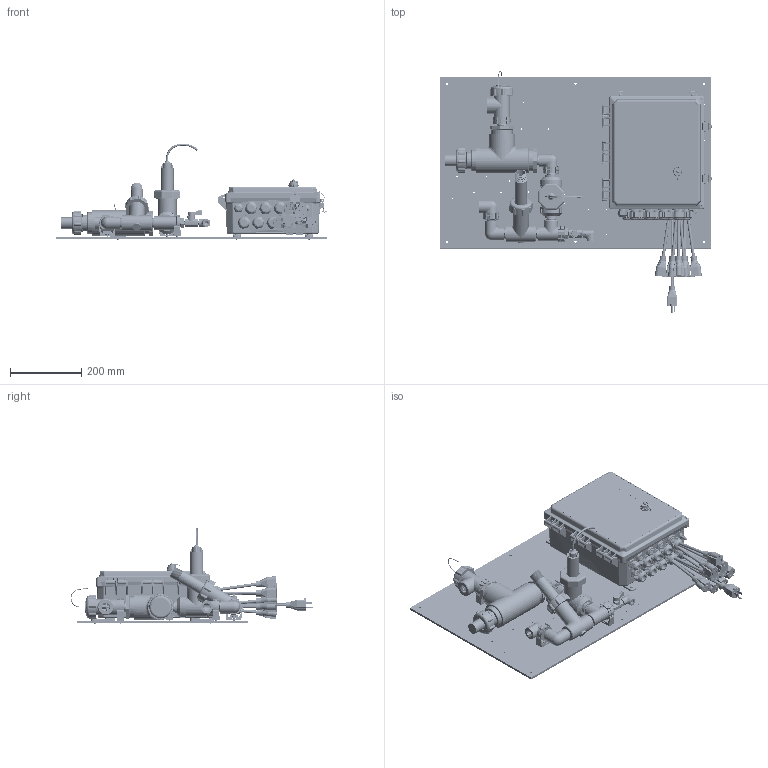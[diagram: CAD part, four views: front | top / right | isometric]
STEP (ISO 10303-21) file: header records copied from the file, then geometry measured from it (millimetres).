
FILE_DESCRIPTION (( 'STEP AP203' ), '1' );
FILE_NAME ('W900-CT-PCFPNN.STEP', '2019-04-24T14:21:08', ( '' ), ( '' ), 'SwSTEP 2.0', 'SolidWorks 2019', '' );
FILE_SCHEMA (( 'CONFIG_CONTROL_DESIGN' ));
Length unit declared in the file: inch
Products named in the file (58): ISA0006; SHELL-190996; SHELL-102381_4880K345; SHELL-102377ws; SHELL-ST-500; SHELL-103134; 102903_102903; SHELL-191638; SHELL-103859_Cord1; IMS0005; SHELL-102061; SHELL-104159; SHELL-102938; SHELL-102817-01; 102906; SHELL-102882; W900 Shell; SHELL-191020-XX; IMS0038; SHELL-102881; W900-CT-PCFPNN Manifold Only; SHELL-191157; 103860_Cord1; SHELL-102919; SHELL-102961_30075T212; SHELL-102586; IMS0040; SHELL-102423; SHELL-103283-FT; 192606-PIN; 103861; SHELL-102594; SHELL-103886_98273A320; IMS0013; IMS0039; SHELL-102884; W900-CT-PCFPNN; IMS0035_91500A537; SHELL-WEL-XXX-NN; SHELL-102880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
Assembly tree (103 placements, depth 5):
  W900-CT-PCFPNN
    SHELL-102938
    W900 Shell
      W900 Shell
      SHELL-103283-FT  x4
      IMS0035_91500A537  x4
      SHELL-103893_91772A829  x4
      ISA0006
        102907
        102903_102903
        102906
        103860_Cord1  x3
        103861
      ISA0006
        102907
        102903_102903
        102906
        103860_Cord1  x3
        103861
      ISA0006
        102907
        102903_102903
        102906
        103860_Cord1  x3
        103861
      SHELL-103859_Cord1
    102961ws
      SHELL-102961_30075T212
      SHELL-103886_98273A320
    SHELL-102377ws
      SHELL-103886_98273A320
      SHELL-102377_30075T211
    SHELL-102377ws
      SHELL-103886_98273A320
      SHELL-102377_30075T211
    W900-CT-PCFPNN Manifold Only
      SHELL-102881
      SHELL-102423  x3
      SHELL-102884
      SHELL-103425_4882K14  x7
      SHELL-191157
        SHELL-103133
        SHELL-103134  x2
        SHELL-102817-01
      SHELL-191652
        192606-PIN
        SHELL-WEL-XXX-NN
        SHELL-103778
      SHELL-191638
      SHELL-191020-XX
        SHELL-102882
        SHELL-102919
        SHELL-102594
        SHELL-190996
          SHELL-102880
          SHELL-102986  x2
        IMS0005
      SHELL-102586  x3
      SHELL-102594  x2
      SHELL-103515
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Bounding box: 764.69 x 683.29 x 271.95 mm (x, y, z)
Volume: 6341628.3 mm3; surface area: 2552816.9 mm2
Topology: 135 solids, 135 shells, 19485 faces, 50958 edges, 31804 vertices
Faces by surface type: plane 7820, cylinder 5942, bspline 3614, cone 1293, torus 639, sphere 177
Entity records: 691124 total; most frequent: CARTESIAN_POINT 353728, ORIENTED_EDGE 78368, DIRECTION 56127, EDGE_CURVE 39184, VERTEX_POINT 24610, AXIS2_PLACEMENT_3D 19659, VECTOR 16809, LINE 16809
